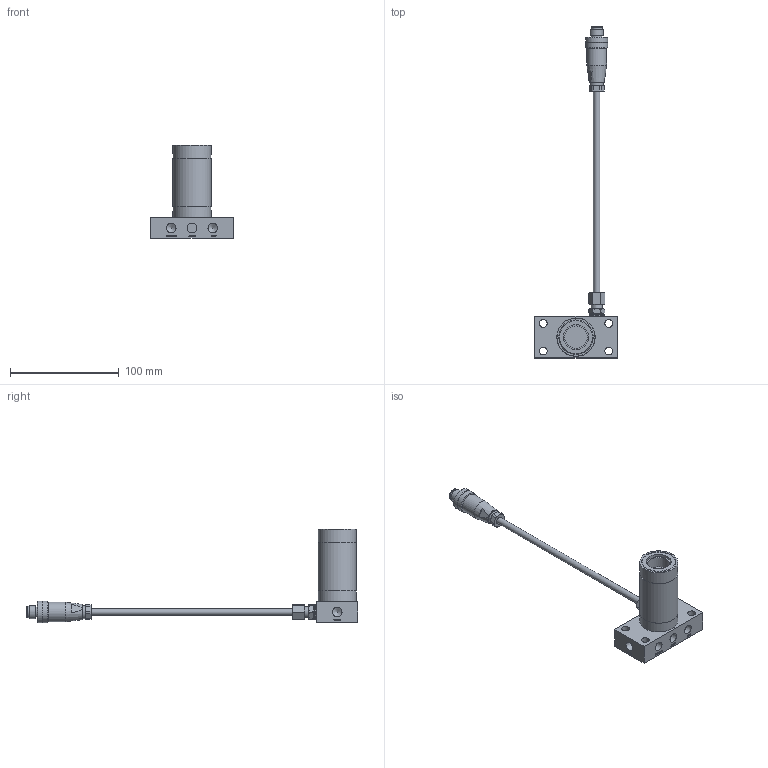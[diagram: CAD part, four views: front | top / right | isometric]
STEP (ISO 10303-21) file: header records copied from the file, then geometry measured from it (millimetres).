
FILE_DESCRIPTION(/* description */ ('ASSEMBLY,BODY, NUTWELD, VFSXAR3_NID.ipt'),/* implementation_level */ '2;1');
FILE_NAME(/* name */ 'C:\Users\sarah.nichol\Documents\SXAR3 CUSTOMER DOCUMENTS\VF,LVDT,SXAR3,TL,S,NHP,N,CUSTOMER.stp',/* time_stamp */ '2015-06-17T10:06:54-04:00',/* author */ ('sarah.nichol'),/* organization */ (''),/* preprocessor_version */ 'ST-DEVELOPER v15.2',/* originating_system */ 'Autodesk Inventor 2014',/* authorisation */ '');
FILE_SCHEMA (('AUTOMOTIVE_DESIGN { 1 0 10303 214 3 1 1 }'));
Length unit declared in the file: millimetre
Products named in the file (5): ASSEMBLY,BODY, NUTWELD, VFSXAR3_NID; FIT,BRASS,STR,COMPRESS,6MMTUBE,1_8_BSPP_0000766911; TUBE,PLASTIC,CLEAR,4MMIDX6MMOD_0000473953.ipt ; CONNECTOR,  MALE, STR, 5-POS,  M12_0000523820; VF,LVDT,SXAR3,TL,S,NHP,N,CUSTOMER
Assembly tree (4 placements, depth 2):
  VF,LVDT,SXAR3,TL,S,NHP,N,CUSTOMER
    ASSEMBLY,BODY, NUTWELD, VFSXAR3_NID
    FIT,BRASS,STR,COMPRESS,6MMTUBE,1_8_BSPP_0000766911
    TUBE,PLASTIC,CLEAR,4MMIDX6MMOD_0000473953.ipt 
    CONNECTOR,  MALE, STR, 5-POS,  M12_0000523820
Bounding box: 76.2 x 305.03 x 86.21 mm (x, y, z)
Volume: 110850.2 mm3; surface area: 51358.9 mm2
Topology: 4 solids, 4 shells, 802 faces, 2048 edges, 1353 vertices
Faces by surface type: plane 513, bspline 156, cylinder 80, cone 48, sphere 5
Full cylindrical faces by diameter (mm): 0.217 x1, 1 x5, 3 x1, 4 x2, 6 x2, 7 x1, 7.144 x4, 8.3 x1, 8.731 x8, 9.73 x1, 10 x2, 10.2 x1, 10.5 x1, 12 x2, 12.7 x1, 14 x1, 16 x1, 18 x1, 20 x1, 20.05 x1, 20.637 x2, 23.019 x1, 28.829 x3, 31.496 x4, 31.623 x1, 34.925 x2, 35.179 x1
Entity records: 25368 total; most frequent: CARTESIAN_POINT 6537, ORIENTED_EDGE 3878, DIRECTION 3084, EDGE_CURVE 1939, LINE 1352, VECTOR 1352, VERTEX_POINT 1319, EDGE_LOOP 988
